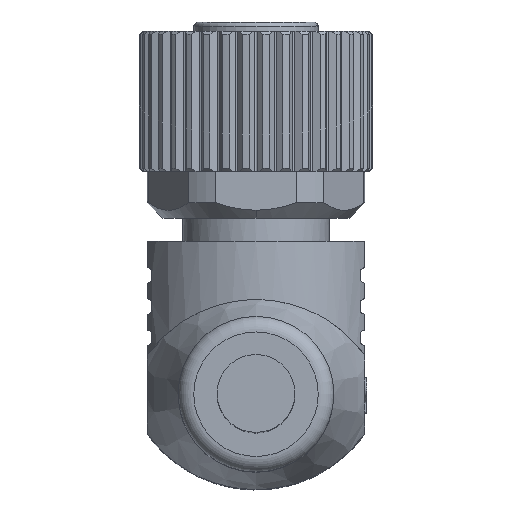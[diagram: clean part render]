
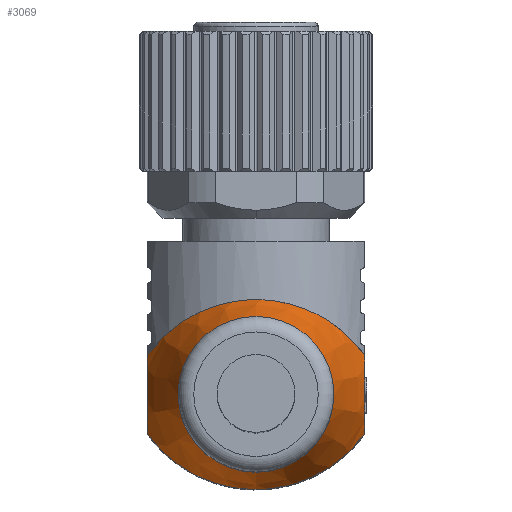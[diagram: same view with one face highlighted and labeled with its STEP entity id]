
A CAD part, top view. The second image highlights one B-rep face of the part: STEP entity #3069.
In plain terms, the highlighted conical face has half-angle 19.816 degrees and reference radius 8.308 mm.
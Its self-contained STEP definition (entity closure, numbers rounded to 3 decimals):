
#244=CONICAL_SURFACE('',#12276,8.308,19.816);
#3069=ADVANCED_FACE('',(#3685,#3686),#244,.T.);
#3685=FACE_BOUND('',#4463,.T.);
#3686=FACE_BOUND('',#4464,.T.);
#4463=EDGE_LOOP('',(#7919));
#4464=EDGE_LOOP('',(#7920,#7921,#7922,#7923));
#5086=CIRCLE('',#12228,5.);
#7919=ORIENTED_EDGE('',*,*,#10693,.F.);
#7920=ORIENTED_EDGE('',*,*,#10808,.F.);
#7921=ORIENTED_EDGE('',*,*,#10809,.F.);
#7922=ORIENTED_EDGE('',*,*,#10810,.F.);
#7923=ORIENTED_EDGE('',*,*,#10811,.F.);
#9213=VERTEX_POINT('',#20343);
#9271=VERTEX_POINT('',#20758);
#9272=VERTEX_POINT('',#20759);
#9273=VERTEX_POINT('',#20766);
#9274=VERTEX_POINT('',#20777);
#10693=EDGE_CURVE('',#9213,#9213,#5086,.T.);
#10808=EDGE_CURVE('',#9271,#9272,#11207,.T.);
#10809=EDGE_CURVE('',#9273,#9271,#11208,.T.);
#10810=EDGE_CURVE('',#9274,#9273,#11209,.T.);
#10811=EDGE_CURVE('',#9272,#9274,#11210,.T.);
#11207=B_SPLINE_CURVE_WITH_KNOTS('',3,(#20748,#20749,#20750,#20751,#20752,
#20753,#20754,#20755,#20756,#20757),.UNSPECIFIED.,.F.,.F.,(4,2,2,2,4),(0.,
0.25,0.5,0.75,1.),.UNSPECIFIED.);
#11208=B_SPLINE_CURVE_WITH_KNOTS('',3,(#20760,#20761,#20762,#20763,#20764,
#20765),.UNSPECIFIED.,.F.,.F.,(4,2,4),(0.,0.5,1.),.UNSPECIFIED.);
#11209=B_SPLINE_CURVE_WITH_KNOTS('',3,(#20767,#20768,#20769,#20770,#20771,
#20772,#20773,#20774,#20775,#20776),.UNSPECIFIED.,.F.,.F.,(4,2,2,2,4),(0.,
0.25,0.5,0.75,1.),.UNSPECIFIED.);
#11210=B_SPLINE_CURVE_WITH_KNOTS('',3,(#20778,#20779,#20780,#20781,#20782,
#20783),.UNSPECIFIED.,.F.,.F.,(4,2,4),(0.,0.5,1.),.UNSPECIFIED.);
#12228=AXIS2_PLACEMENT_3D('',#20342,#14989,#14990);
#12276=AXIS2_PLACEMENT_3D('',#20784,#15192,#15193);
#14989=DIRECTION('',(0.,0.,1.));
#14990=DIRECTION('',(0.,-1.,0.));
#15192=DIRECTION('',(0.,0.,-1.));
#15193=DIRECTION('',(0.,-1.,0.));
#20342=CARTESIAN_POINT('',(0.,-1.953,18.));
#20343=CARTESIAN_POINT('',(0.,-6.953,18.));
#20748=CARTESIAN_POINT('',(7.,-4.453,11.248));
#20749=CARTESIAN_POINT('',(6.292,-5.442,12.174));
#20750=CARTESIAN_POINT('',(5.375,-6.302,13.044));
#20751=CARTESIAN_POINT('',(3.01,-7.622,14.449));
#20752=CARTESIAN_POINT('',(1.532,-8.051,14.945));
#20753=CARTESIAN_POINT('',(-1.511,-8.054,14.949));
#20754=CARTESIAN_POINT('',(-3.,-7.625,14.452));
#20755=CARTESIAN_POINT('',(-5.355,-6.317,13.06));
#20756=CARTESIAN_POINT('',(-6.291,-5.444,12.175));
#20757=CARTESIAN_POINT('',(-7.,-4.453,11.248));
#20758=CARTESIAN_POINT('',(7.,-4.453,11.248));
#20759=CARTESIAN_POINT('',(-7.,-4.453,11.248));
#20760=CARTESIAN_POINT('',(7.,0.547,11.248));
#20761=CARTESIAN_POINT('',(7.,-0.148,11.897));
#20762=CARTESIAN_POINT('',(7.,-1.01,12.45));
#20763=CARTESIAN_POINT('',(7.,-2.899,12.449));
#20764=CARTESIAN_POINT('',(7.,-3.759,11.895));
#20765=CARTESIAN_POINT('',(7.,-4.453,11.248));
#20766=CARTESIAN_POINT('',(7.,0.547,11.248));
#20767=CARTESIAN_POINT('',(-7.,0.547,11.248));
#20768=CARTESIAN_POINT('',(-6.292,1.537,12.174));
#20769=CARTESIAN_POINT('',(-5.375,2.397,13.044));
#20770=CARTESIAN_POINT('',(-3.01,3.717,14.449));
#20771=CARTESIAN_POINT('',(-1.532,4.146,14.945));
#20772=CARTESIAN_POINT('',(1.511,4.149,14.949));
#20773=CARTESIAN_POINT('',(3.,3.719,14.452));
#20774=CARTESIAN_POINT('',(5.355,2.412,13.06));
#20775=CARTESIAN_POINT('',(6.291,1.539,12.175));
#20776=CARTESIAN_POINT('',(7.,0.547,11.248));
#20777=CARTESIAN_POINT('',(-7.,0.547,11.248));
#20778=CARTESIAN_POINT('',(-7.,-4.453,11.248));
#20779=CARTESIAN_POINT('',(-7.,-3.757,11.897));
#20780=CARTESIAN_POINT('',(-7.,-2.895,12.45));
#20781=CARTESIAN_POINT('',(-7.,-1.006,12.449));
#20782=CARTESIAN_POINT('',(-7.,-0.146,11.895));
#20783=CARTESIAN_POINT('',(-7.,0.547,11.248));
#20784=CARTESIAN_POINT('',(0.,-1.953,8.821));
